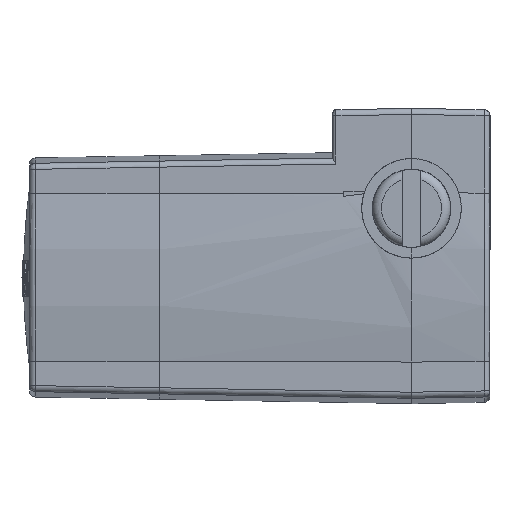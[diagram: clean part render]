
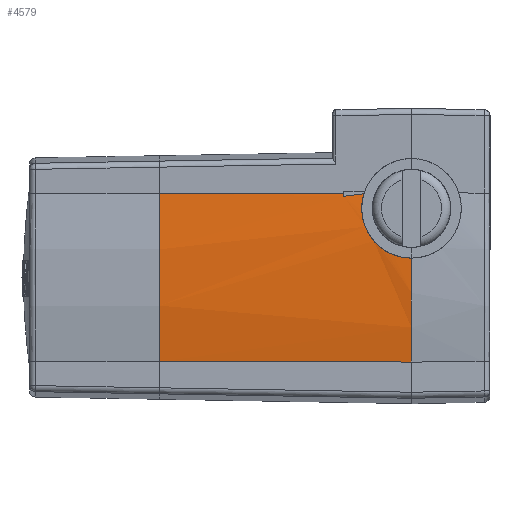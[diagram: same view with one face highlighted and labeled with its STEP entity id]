
A CAD part, left-side view. The second image highlights one B-rep face of the part: STEP entity #4579.
In plain terms, the highlighted conical face has half-angle 1 degrees and reference radius 196.271 mm.
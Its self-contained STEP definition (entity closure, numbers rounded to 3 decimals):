
#51=CARTESIAN_POINT('',(-38.543,60.,-27.896));
#52=CARTESIAN_POINT('',(-39.028,32.167,-27.931));
#53=CARTESIAN_POINT('',(-39.514,4.333,-27.965));
#54=CARTESIAN_POINT('',(-40.,-23.5,-28.));
#80=CARTESIAN_POINT('',(-38.543,60.,27.896));
#81=CARTESIAN_POINT('',(-38.897,39.667,27.921));
#82=CARTESIAN_POINT('',(-39.252,19.333,27.947));
#83=CARTESIAN_POINT('',(-39.607,-1.,27.972));
#591=CARTESIAN_POINT('',(155.,-23.5,0.));
#592=DIRECTION('',(0.,-1.,0.));
#593=DIRECTION('',(-0.999,0.,0.032));
#594=AXIS2_PLACEMENT_3D('',#591,#592,#593);
#1599=CARTESIAN_POINT('',(155.,-1.,0.));
#1600=DIRECTION('',(0.,-1.,0.));
#1601=DIRECTION('',(-0.99,0.,0.142));
#1602=AXIS2_PLACEMENT_3D('',#1599,#1600,#1601);
#1604=CARTESIAN_POINT('',(-39.762,-7.719,27.718));
#1605=CARTESIAN_POINT('',(-39.762,-6.589,27.578));
#1606=CARTESIAN_POINT('',(-39.762,-4.338,27.297));
#1607=CARTESIAN_POINT('',(-39.762,-2.109,27.015));
#1608=CARTESIAN_POINT('',(-39.762,-1.,26.873));
#1615=CARTESIAN_POINT('',(-39.762,-7.719,27.718));
#1616=CARTESIAN_POINT('',(-39.824,-7.582,
27.269));
#1617=CARTESIAN_POINT('',(-39.946,-7.345,
26.356));
#1618=CARTESIAN_POINT('',(-40.127,-7.107,
24.952));
#1619=CARTESIAN_POINT('',(-40.3,-6.992,
23.538));
#1620=CARTESIAN_POINT('',(-40.465,-6.998,
22.133));
#1621=CARTESIAN_POINT('',(-40.621,-7.123,
20.725));
#1622=CARTESIAN_POINT('',(-40.776,-7.383,
19.252));
#1623=CARTESIAN_POINT('',(-40.933,-7.817,
17.679));
#1624=CARTESIAN_POINT('',(-41.09,-8.478,
15.984));
#1625=CARTESIAN_POINT('',(-41.249,-9.454,
14.147));
#1626=CARTESIAN_POINT('',(-41.401,-10.829,
12.236));
#1627=CARTESIAN_POINT('',(-41.539,-12.638,
10.379));
#1628=CARTESIAN_POINT('',(-41.661,-14.957,
8.682));
#1629=CARTESIAN_POINT('',(-41.76,-17.64,
7.377));
#1630=CARTESIAN_POINT('',(-41.84,-20.579,
6.568));
#1631=CARTESIAN_POINT('',(-41.879,-22.532,6.4));
#1632=CARTESIAN_POINT('',(-41.896,-23.5,6.4));
#1634=CARTESIAN_POINT('',(155.,60.,0.));
#1635=DIRECTION('',(0.,1.,0.));
#1636=DIRECTION('',(-0.99,0.,-0.143));
#1637=AXIS2_PLACEMENT_3D('',#1634,#1635,#1636);
#1899=CARTESIAN_POINT('',(-38.543,60.,-27.896));
#1900=CARTESIAN_POINT('',(-38.543,60.,27.896));
#1901=VERTEX_POINT('',#1899);
#1902=VERTEX_POINT('',#1900);
#1911=VERTEX_POINT('',#54);
#1988=CARTESIAN_POINT('',(-41.896,-23.5,6.4));
#1989=VERTEX_POINT('',#1988);
#2077=CARTESIAN_POINT('',(-39.607,-1.,27.972));
#2078=VERTEX_POINT('',#2077);
#2081=CARTESIAN_POINT('',(-39.762,-1.,26.873));
#2082=VERTEX_POINT('',#2081);
#2083=VERTEX_POINT('',#1604);
#4565=CARTESIAN_POINT('',(155.,18.25,0.));
#4566=DIRECTION('',(0.,-1.,0.));
#4567=DIRECTION('',(0.,0.,1.));
#4568=AXIS2_PLACEMENT_3D('',#4565,#4566,#4567);
#4569=CONICAL_SURFACE('',#4568,196.271,1.);
#4570=ORIENTED_EDGE('',*,*,#4546,.T.);
#4571=ORIENTED_EDGE('',*,*,#4557,.F.);
#4572=ORIENTED_EDGE('',*,*,#4517,.T.);
#4573=ORIENTED_EDGE('',*,*,#3069,.T.);
#4574=ORIENTED_EDGE('',*,*,#2448,.F.);
#4575=ORIENTED_EDGE('',*,*,#2507,.T.);
#4576=ORIENTED_EDGE('',*,*,#2472,.T.);
#4577=EDGE_LOOP('',(#4570,#4571,#4572,#4573,#4574,#4575,#4576));
#4578=FACE_OUTER_BOUND('',#4577,.F.);
#4579=ADVANCED_FACE('',(#4578),#4569,.T.);
#55=B_SPLINE_CURVE_WITH_KNOTS('',3,(#51,#52,#53,#54),.UNSPECIFIED.,.F.,.F.,(4,
4),(0.,1.),.UNSPECIFIED.);
#84=B_SPLINE_CURVE_WITH_KNOTS('',3,(#80,#81,#82,#83),.UNSPECIFIED.,.F.,.F.,(4,
4),(0.,1.),.UNSPECIFIED.);
#595=CIRCLE('',#594,197.);
#1603=CIRCLE('',#1602,196.607);
#1609=B_SPLINE_CURVE_WITH_KNOTS('',3,(#1604,#1605,#1606,#1607,#1608),
.UNSPECIFIED.,.F.,.F.,(4,1,4),(0.,0.5,1.),.UNSPECIFIED.);
#1633=B_SPLINE_CURVE_WITH_KNOTS('',3,(#1615,#1616,#1617,#1618,#1619,#1620,#1621,
#1622,#1623,#1624,#1625,#1626,#1627,#1628,#1629,#1630,#1631,#1632),
.UNSPECIFIED.,.F.,.F.,(4,1,1,1,1,1,1,1,1,1,1,1,1,1,1,4),(0.,0.067,
0.133,0.2,0.267,0.333,0.4,
0.467,0.533,0.6,0.667,0.733,
0.8,0.867,0.933,1.),.UNSPECIFIED.);
#1638=CIRCLE('',#1637,195.543);
#2448=EDGE_CURVE('',#1901,#1911,#55,.T.);
#2472=EDGE_CURVE('',#1902,#2078,#84,.T.);
#2507=EDGE_CURVE('',#1901,#1902,#1638,.T.);
#3069=EDGE_CURVE('',#1989,#1911,#595,.T.);
#4517=EDGE_CURVE('',#2083,#1989,#1633,.T.);
#4546=EDGE_CURVE('',#2078,#2082,#1603,.T.);
#4557=EDGE_CURVE('',#2083,#2082,#1609,.T.);
